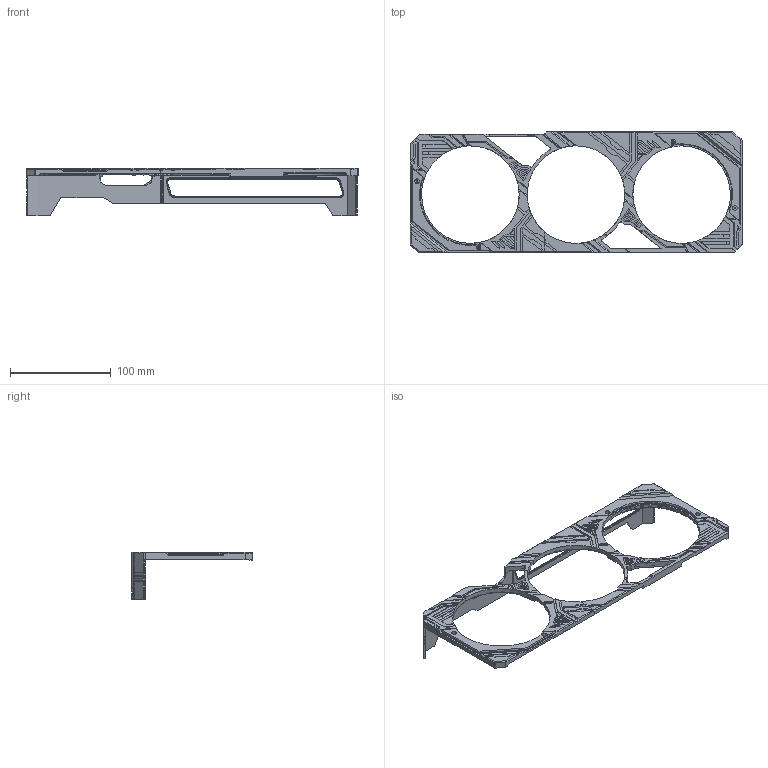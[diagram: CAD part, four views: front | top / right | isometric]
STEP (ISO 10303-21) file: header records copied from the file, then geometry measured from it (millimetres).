
FILE_DESCRIPTION((''),'2;1');
FILE_NAME('20221104_MAKER_DEFAULT_ALL_ASM__ASM','2022-11-04T11:59:47',('Kate'),(''),'CREO PARAMETRIC BY PTC INC, 2020281','CREO PARAMETRIC BY PTC INC, 2020281','');
FILE_SCHEMA(('CONFIG_CONTROL_DESIGN'));
Length unit declared in the file: millimetre
Products named in the file (4): 20221104_MAKER_DEFAULT_ALL_AS_1_ASM; 20221104_MAKER_DEFAULT_01; 20221104_MAKER_DEFAULT_02; 20221104_MAKER_DEFAULT_ALL_ASM__ASM
Assembly tree (3 placements, depth 2):
  20221104_MAKER_DEFAULT_ALL_ASM__ASM
    20221104_MAKER_DEFAULT_ALL_AS_1_ASM
    20221104_MAKER_DEFAULT_01
    20221104_MAKER_DEFAULT_02
Bounding box: 330 x 120 x 46.83 mm (x, y, z)
Volume: 78302.8 mm3; surface area: 60789.8 mm2
Topology: 2 solids, 2 shells, 910 faces, 2696 edges, 1798 vertices
Faces by surface type: plane 694, cylinder 134, cone 40, torus 30, extrusion 7, bspline 3, revolution 2
Entity records: 31301 total; most frequent: CARTESIAN_POINT 6848, ORIENTED_EDGE 5386, DIRECTION 4718, EDGE_CURVE 2693, VECTOR 2000, LINE 1993, VERTEX_POINT 1798, AXIS2_PLACEMENT_3D 1358
